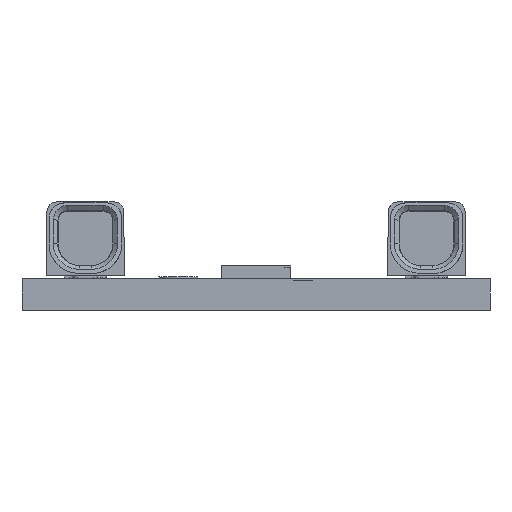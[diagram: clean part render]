
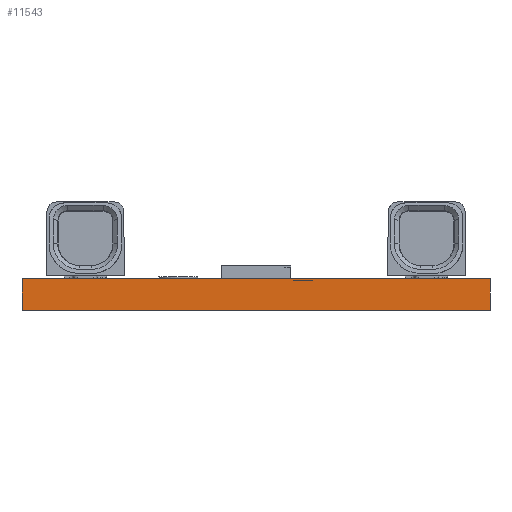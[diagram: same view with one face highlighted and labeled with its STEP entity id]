
A CAD part, left-side view. The second image highlights one B-rep face of the part: STEP entity #11543.
In plain terms, the highlighted planar face has unit normal (-1, 0, 0).
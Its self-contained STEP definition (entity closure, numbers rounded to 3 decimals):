
#1454 = ORIENTED_EDGE ( 'NONE', *, *, #56862, .T. ) ;
#1668 = DIRECTION ( 'NONE',  ( 1., 0., 0. ) ) ;
#9226 = VECTOR ( 'NONE', #72155, 1000. ) ;
#9693 = CARTESIAN_POINT ( 'NONE',  ( -140., -12., 1.6 ) ) ;
#11543 = ADVANCED_FACE ( 'NONE', ( #78475 ), #123388, .F. ) ;
#13860 = AXIS2_PLACEMENT_3D ( 'NONE', #102740, #1668, #82078 ) ;
#19862 = VECTOR ( 'NONE', #89440, 1000. ) ;
#21240 = VECTOR ( 'NONE', #98858, 1000. ) ;
#24164 = LINE ( 'NONE', #69228, #9226 ) ;
#34169 = VECTOR ( 'NONE', #99014, 1000. ) ;
#42142 = LINE ( 'NONE', #45102, #34169 ) ;
#43033 = CARTESIAN_POINT ( 'NONE',  ( -140., -12., 1.6 ) ) ;
#45102 = CARTESIAN_POINT ( 'NONE',  ( -140., -12., 0. ) ) ;
#45717 = CARTESIAN_POINT ( 'NONE',  ( -140., 12., 0. ) ) ;
#50688 = VERTEX_POINT ( 'NONE', #144087 ) ;
#56313 = EDGE_CURVE ( 'NONE', #50688, #93904, #24164, .T. ) ;
#56862 = EDGE_CURVE ( 'NONE', #50688, #70144, #65611, .T. ) ;
#61156 = EDGE_LOOP ( 'NONE', ( #74402, #72786, #132752, #1454 ) ) ;
#65611 = LINE ( 'NONE', #129853, #21240 ) ;
#69223 = VERTEX_POINT ( 'NONE', #131344 ) ;
#69228 = CARTESIAN_POINT ( 'NONE',  ( -140., -12., 1.6 ) ) ;
#70144 = VERTEX_POINT ( 'NONE', #45717 ) ;
#72155 = DIRECTION ( 'NONE',  ( 0., -1., 0. ) ) ;
#72786 = ORIENTED_EDGE ( 'NONE', *, *, #141401, .F. ) ;
#74402 = ORIENTED_EDGE ( 'NONE', *, *, #101237, .T. ) ;
#78475 = FACE_OUTER_BOUND ( 'NONE', #61156, .T. ) ;
#82078 = DIRECTION ( 'NONE',  ( 0., 0., -1. ) ) ;
#89440 = DIRECTION ( 'NONE',  ( 0., 0., -1. ) ) ;
#93904 = VERTEX_POINT ( 'NONE', #43033 ) ;
#98858 = DIRECTION ( 'NONE',  ( 0., 0., -1. ) ) ;
#99014 = DIRECTION ( 'NONE',  ( 0., -1., 0. ) ) ;
#101237 = EDGE_CURVE ( 'NONE', #70144, #69223, #42142, .T. ) ;
#101897 = LINE ( 'NONE', #9693, #19862 ) ;
#102740 = CARTESIAN_POINT ( 'NONE',  ( -140., -12., 1.6 ) ) ;
#123388 = PLANE ( 'NONE',  #13860 ) ;
#129853 = CARTESIAN_POINT ( 'NONE',  ( -140., 12., 1.6 ) ) ;
#131344 = CARTESIAN_POINT ( 'NONE',  ( -140., -12., 0. ) ) ;
#132752 = ORIENTED_EDGE ( 'NONE', *, *, #56313, .F. ) ;
#141401 = EDGE_CURVE ( 'NONE', #93904, #69223, #101897, .T. ) ;
#144087 = CARTESIAN_POINT ( 'NONE',  ( -140., 12., 1.6 ) ) ;
